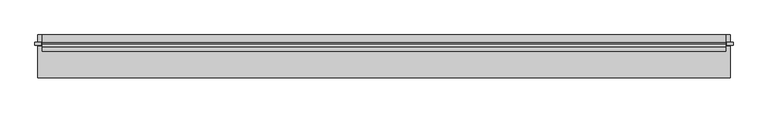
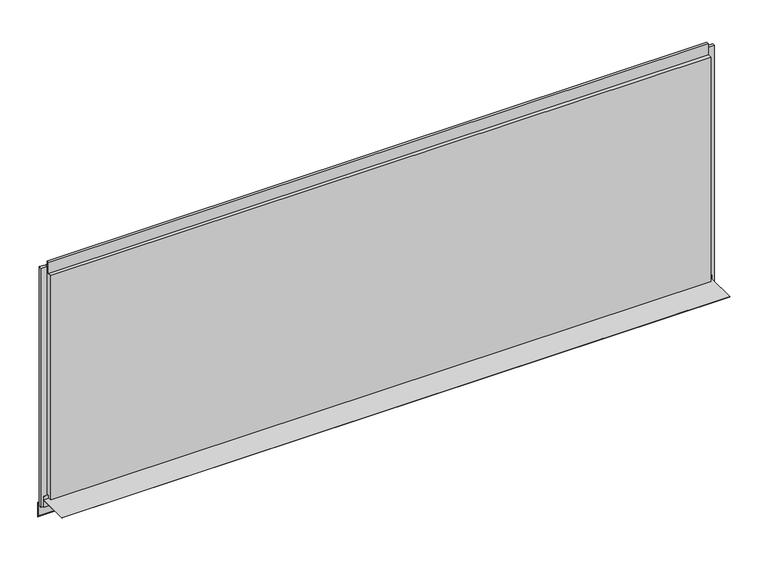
"""IFC4 building model written with IfcOpenShell, lengths in millimetres: plate geometry, Trimo_Qbiss Screen_Normal Panel-HORIZONTAL : HR - B."""

from ifc_helpers import new_model, si_unit, frame, origin, place, context, project, spatial, polyline, outline, extrude, source, transform, mapped, element, save


def plate_084c0bee(model_context):
    return source(origin(), model_context, "Body", "SweptSolid", [
        extrude(outline(polyline([(66.7, 14.0835797), (67.5, 14.0835797), (67.5, -23.0), (100.0, -25.8433816), (100.0, -76.0), (87.1509533, -63.1509533), (87.7166388, -62.5852679), (99.2, -74.0686292), (99.2, -26.5764465), (66.7, -23.7330649), (66.7, 1.0), (-32.5, 1.0), (-32.5, 1.8), (66.7, 1.8), (66.7, 14.0835797)])), frame((-1067.1, 0.0, 0.0), z_axis=(1.0, 0.0, 0.0), x_axis=(0.0, 1.0, 0.0)), (0.0, 0.0, 1.0), 2134.2),
        extrude(outline(polyline([(-1057.6, 76.5978162), (-1057.6, 67.8978162), (-1076.6, 67.8978162), (-1076.6, 76.5978162), (-1057.6, 76.5978162)])), frame((0.0, 0.0, -20.0), z_axis=(0.0, 0.0, 1.0), x_axis=(1.0, 0.0, 0.0)), (0.0, 0.0, 1.0), 806.95),
        extrude(outline(polyline([(1057.6, 67.8978162), (1057.6, 76.5978162), (1076.6, 76.5978162), (1076.6, 67.8978162), (1057.6, 67.8978162)])), frame((0.0, 0.0, -20.0), z_axis=(0.0, 0.0, 1.0), x_axis=(1.0, 0.0, 0.0)), (0.0, 0.0, 1.0), 806.95),
        extrude(outline(polyline([(1054.6, 76.0), (1054.6, 71.0), (-1054.6, 71.0), (-1054.6, 76.0), (1054.6, 76.0)])), frame((0.0, 0.0, 765.95), z_axis=(0.0, 0.0, 1.0), x_axis=(1.0, 0.0, 0.0)), (0.0, 0.0, 1.0), 21.0),
        extrude(outline(polyline([(71.0, 764.95), (100.0, 764.95), (100.0, 0.0), (72.0, 0.0), (72.0, 15.5), (62.0, 15.5), (62.0, 7.0), (50.0, 7.0), (50.0, 764.95), (63.0, 764.95), (63.0, 802.45), (71.0, 802.45), (71.0, 764.95)])), frame((-1054.6, 0.0, 0.0), z_axis=(1.0, 0.0, 0.0), x_axis=(0.0, 1.0, 0.0)), (0.0, 0.0, 1.0), 2109.2),
    ])


if __name__ == "__main__":
    model = new_model("IFC4")
    model_context = context("Model", 3, world=origin())
    ifc_project = project(units=[si_unit("LENGTHUNIT", "METRE", prefix="MILLI")], contexts=[model_context])
    site = spatial("IfcSite", under=ifc_project)
    building = spatial("IfcBuilding", under=site)
    placement = place(None, origin())
    plate_shape = plate_084c0bee(model_context)
    element("IfcPlate", 1, ObjectType="Trimo_Qbiss Screen_Normal Panel-HORIZONTAL : HR - B", at=placement, inside=building, context=model_context, shape_type="MappedRepresentation", body=[
        mapped(plate_shape, transform((0.0, 0.0, 0.0), x_axis=(1.0, 0.0, 0.0), y_axis=(0.0, 1.0, 0.0), z_axis=(0.0, 0.0, 1.0))),
    ])
    save(model, "model.ifc")
